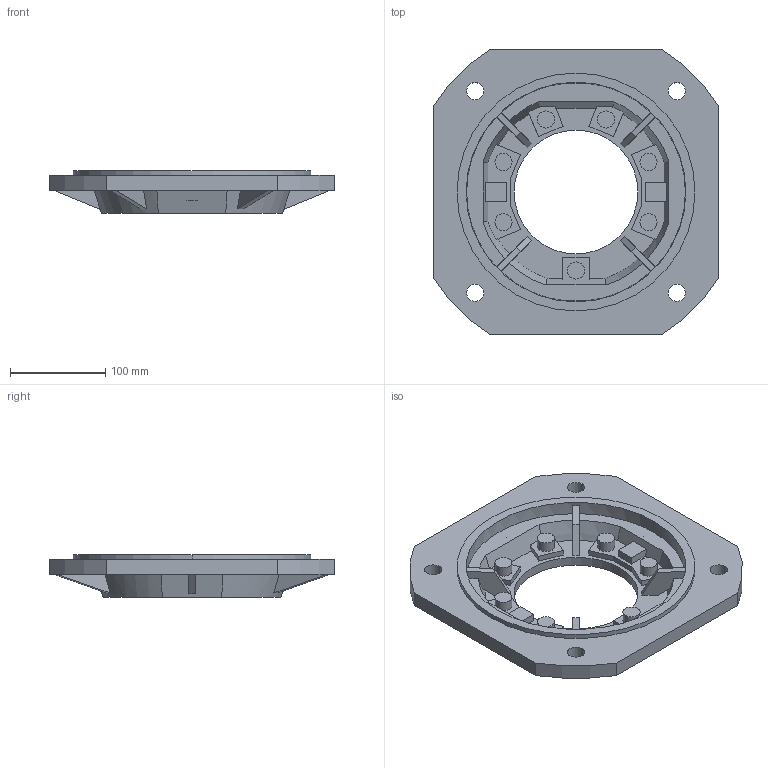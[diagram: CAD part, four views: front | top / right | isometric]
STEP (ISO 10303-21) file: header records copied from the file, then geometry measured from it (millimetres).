
FILE_DESCRIPTION(/* description */ (''),/* implementation_level */ '2;1');
FILE_NAME(/* name */ '1_FLANGIA (CAMPANA) LATERALE FA B103',/* time_stamp */ '2025-10-22T11:10:51+02:00',/* author */ (''),/* organization */ (''),/* preprocessor_version */ 'ST-DEVELOPER v19.2',/* originating_system */ 'Rhino 8.23',/* authorisation */ '');
FILE_SCHEMA (('CONFIG_CONTROL_DESIGN'));
Length unit declared in the file: millimetre
Products named in the file (3): Document; BFU103FA; Blocco 01
Bounding box: 300 x 300 x 45 mm (x, y, z)
Volume: 1130226.6 mm3; surface area: 223199.8 mm2
Topology: 5 solids, 5 shells, 173 faces, 471 edges, 314 vertices
Faces by surface type: plane 129, cylinder 30, bspline 14
Entity records: 7013 total; most frequent: CARTESIAN_POINT 1946, ORIENTED_EDGE 942, EDGE_CURVE 471, DIRECTION 389, B_SPLINE_CURVE_WITH_KNOTS 346, VERTEX_POINT 314, AXIS2_PLACEMENT_3D 274, EDGE_LOOP 197
